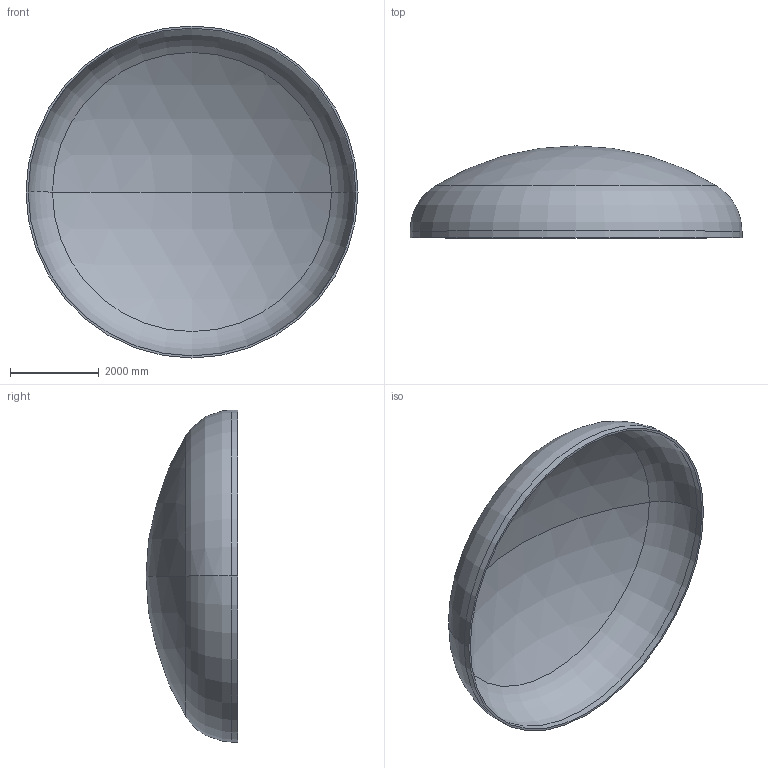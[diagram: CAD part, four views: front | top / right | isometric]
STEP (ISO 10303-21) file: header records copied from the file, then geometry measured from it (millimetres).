
FILE_DESCRIPTION (( 'STEP AP203' ), '1' );
FILE_NAME ('DIN 28013 Korbbogenform_-_Boden DIN 28013 - 7500 x 150 - I - s=49.step', '2016-07-04T10:54:34', ( '' ), ( '' ), 'SwSTEP 2.0', 'SolidWorks 2013', '' );
FILE_SCHEMA (( 'CONFIG_CONTROL_DESIGN' ));
Length unit declared in the file: millimetre
Products named in the file (1): DIN 28013 Korbbogenform_-_Boden DIN 28013 - 7500 x 150 - I - s=49
Bounding box: 7500 x 2076.88 x 7500 mm (x, y, z)
Volume: 3144465116 mm3; surface area: 129497486.2 mm2
Topology: 1 solids, 1 shells, 13 faces, 24 edges, 14 vertices
Faces by surface type: torus 4, cylinder 4, sphere 4, plane 1
Entity records: 407 total; most frequent: DIRECTION 72, CARTESIAN_POINT 52, ORIENTED_EDGE 48, AXIS2_PLACEMENT_3D 34, EDGE_CURVE 24, CIRCLE 20, VERTEX_POINT 14, EDGE_LOOP 14
